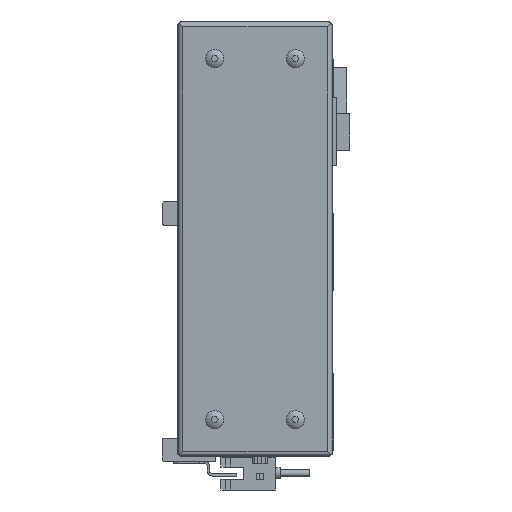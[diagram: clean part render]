
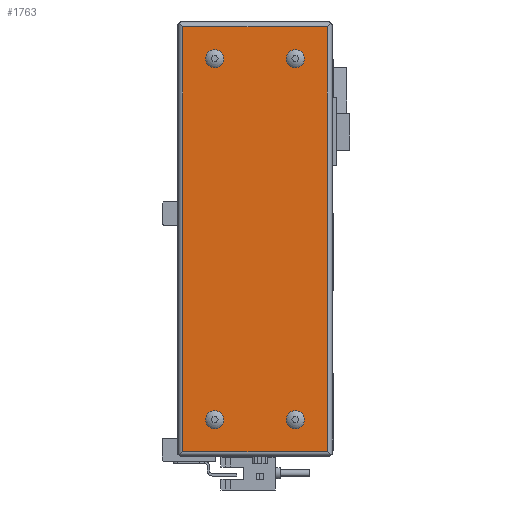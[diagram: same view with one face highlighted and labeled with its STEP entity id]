
A CAD part, left-side view. The second image highlights one B-rep face of the part: STEP entity #1763.
In plain terms, the highlighted planar face has unit normal (-1, 0, 0).
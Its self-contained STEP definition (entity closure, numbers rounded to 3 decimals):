
#1763 = ADVANCED_FACE( '', ( #3870, #3871, #3872, #3873, #3874 ), #3875, .F. );
#3870 = FACE_BOUND( '', #6337, .T. );
#3871 = FACE_BOUND( '', #6338, .T. );
#3872 = FACE_BOUND( '', #6339, .T. );
#3873 = FACE_BOUND( '', #6340, .T. );
#3874 = FACE_OUTER_BOUND( '', #6341, .T. );
#3875 = PLANE( '', #6342 );
#6337 = EDGE_LOOP( '', ( #11108 ) );
#6338 = EDGE_LOOP( '', ( #11109 ) );
#6339 = EDGE_LOOP( '', ( #11110 ) );
#6340 = EDGE_LOOP( '', ( #11111 ) );
#6341 = EDGE_LOOP( '', ( #11112, #11113, #11114, #11115 ) );
#6342 = AXIS2_PLACEMENT_3D( '', #11116, #11117, #11118 );
#11108 = ORIENTED_EDGE( '', *, *, #15995, .F. );
#11109 = ORIENTED_EDGE( '', *, *, #15996, .F. );
#11110 = ORIENTED_EDGE( '', *, *, #15997, .F. );
#11111 = ORIENTED_EDGE( '', *, *, #15998, .F. );
#11112 = ORIENTED_EDGE( '', *, *, #15607, .F. );
#11113 = ORIENTED_EDGE( '', *, *, #15999, .F. );
#11114 = ORIENTED_EDGE( '', *, *, #16000, .T. );
#11115 = ORIENTED_EDGE( '', *, *, #15520, .T. );
#11116 = CARTESIAN_POINT( '', ( -52., 0., 0. ) );
#11117 = DIRECTION( '', ( 1., 0., 0. ) );
#11118 = DIRECTION( '', ( 0., 0., -1. ) );
#15520 = EDGE_CURVE( '', #19078, #19076, #19079, .T. );
#15607 = EDGE_CURVE( '', #19202, #19076, #19204, .T. );
#15995 = EDGE_CURVE( '', #19747, #19747, #19748, .F. );
#15996 = EDGE_CURVE( '', #19749, #19749, #19750, .F. );
#15997 = EDGE_CURVE( '', #19751, #19751, #19752, .F. );
#15998 = EDGE_CURVE( '', #19753, #19753, #19754, .F. );
#15999 = EDGE_CURVE( '', #19755, #19202, #19756, .T. );
#16000 = EDGE_CURVE( '', #19755, #19078, #19757, .T. );
#19076 = VERTEX_POINT( '', #24134 );
#19078 = VERTEX_POINT( '', #24136 );
#19079 = LINE( '', #24137, #24138 );
#19202 = VERTEX_POINT( '', #24338 );
#19204 = LINE( '', #24340, #24341 );
#19747 = VERTEX_POINT( '', #25217 );
#19748 = CIRCLE( '', #25218, 3.7 );
#19749 = VERTEX_POINT( '', #25219 );
#19750 = CIRCLE( '', #25220, 3.7 );
#19751 = VERTEX_POINT( '', #25221 );
#19752 = CIRCLE( '', #25222, 3.7 );
#19753 = VERTEX_POINT( '', #25223 );
#19754 = CIRCLE( '', #25224, 3.7 );
#19755 = VERTEX_POINT( '', #25225 );
#19756 = LINE( '', #25226, #25227 );
#19757 = LINE( '', #25228, #25229 );
#24134 = CARTESIAN_POINT( '', ( -52., 2.5, -49. ) );
#24136 = CARTESIAN_POINT( '', ( -52., 61.5, -49. ) );
#24137 = CARTESIAN_POINT( '', ( -52., 177.5, -49. ) );
#24138 = VECTOR( '', #28112, 1000. );
#24338 = CARTESIAN_POINT( '', ( -52., 2.5, 124.5 ) );
#24340 = CARTESIAN_POINT( '', ( -52., 2.5, 177.5 ) );
#24341 = VECTOR( '', #28208, 1000. );
#25217 = CARTESIAN_POINT( '', ( -52., 15.5, 107.8 ) );
#25218 = AXIS2_PLACEMENT_3D( '', #28602, #28603, #28604 );
#25219 = CARTESIAN_POINT( '', ( -52., 15.5, -39.7 ) );
#25220 = AXIS2_PLACEMENT_3D( '', #28605, #28606, #28607 );
#25221 = CARTESIAN_POINT( '', ( -52., 48.5, 107.8 ) );
#25222 = AXIS2_PLACEMENT_3D( '', #28608, #28609, #28610 );
#25223 = CARTESIAN_POINT( '', ( -52., 48.5, -39.7 ) );
#25224 = AXIS2_PLACEMENT_3D( '', #28611, #28612, #28613 );
#25225 = CARTESIAN_POINT( '', ( -52., 61.5, 124.5 ) );
#25226 = CARTESIAN_POINT( '', ( -52., 177.5, 124.5 ) );
#25227 = VECTOR( '', #28614, 1000. );
#25228 = CARTESIAN_POINT( '', ( -52., 61.5, 177.5 ) );
#25229 = VECTOR( '', #28615, 1000. );
#28112 = DIRECTION( '', ( 0., -1., 0. ) );
#28208 = DIRECTION( '', ( 0., 0., -1. ) );
#28602 = CARTESIAN_POINT( '', ( -52., 15.5, 111.5 ) );
#28603 = DIRECTION( '', ( 1., 0., 0. ) );
#28604 = DIRECTION( '', ( 0., 0., -1. ) );
#28605 = CARTESIAN_POINT( '', ( -52., 15.5, -36. ) );
#28606 = DIRECTION( '', ( 1., 0., 0. ) );
#28607 = DIRECTION( '', ( 0., 0., -1. ) );
#28608 = CARTESIAN_POINT( '', ( -52., 48.5, 111.5 ) );
#28609 = DIRECTION( '', ( 1., 0., 0. ) );
#28610 = DIRECTION( '', ( 0., 0., -1. ) );
#28611 = CARTESIAN_POINT( '', ( -52., 48.5, -36. ) );
#28612 = DIRECTION( '', ( 1., 0., 0. ) );
#28613 = DIRECTION( '', ( 0., 0., -1. ) );
#28614 = DIRECTION( '', ( 0., -1., 0. ) );
#28615 = DIRECTION( '', ( 0., 0., -1. ) );
